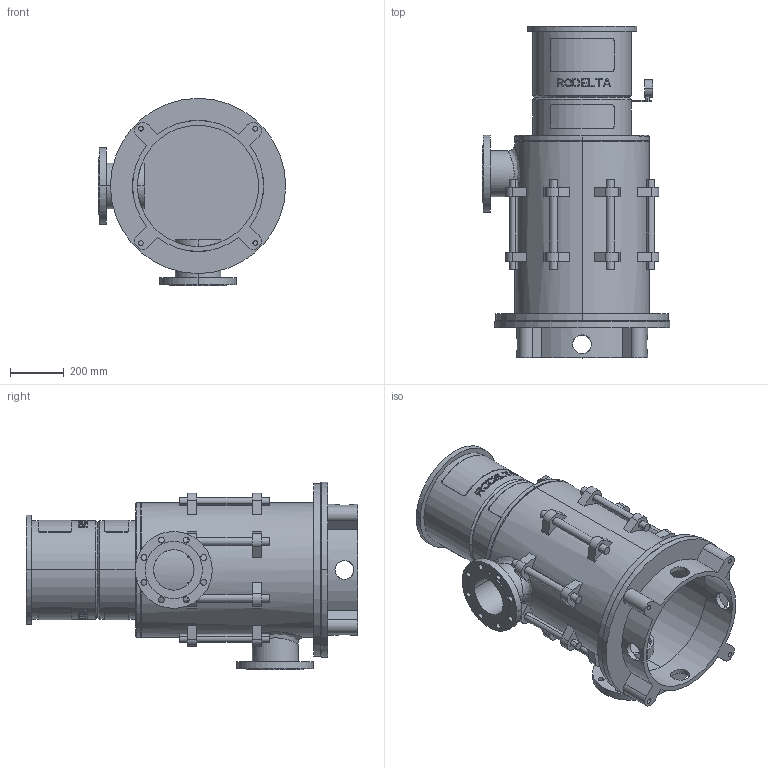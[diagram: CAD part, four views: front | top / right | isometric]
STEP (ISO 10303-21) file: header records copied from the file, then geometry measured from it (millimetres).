
FILE_DESCRIPTION((''),'2;1');
FILE_NAME('LS6_2TR_0GR_TOT_30KW','2023-08-15T',('Lyritlocal'),(''),'PRO/ENGINEER BY PARAMETRIC TECHNOLOGY CORPORATION, 2016360','PRO/ENGINEER BY PARAMETRIC TECHNOLOGY CORPORATION, 2016360','');
FILE_SCHEMA(('CONFIG_CONTROL_DESIGN'));
Length unit declared in the file: millimetre
Products named in the file (1): LS6_2TR_0GR_TOT_30KW
Bounding box: 695 x 1231 x 695 mm (x, y, z)
Volume: 40270226.9 mm3; surface area: 5291323.3 mm2
Topology: 3 solids, 7 shells, 684 faces, 1769 edges, 1174 vertices
Faces by surface type: plane 422, cylinder 242, cone 12, bspline 8
Entity records: 22581 total; most frequent: CARTESIAN_POINT 5961, ORIENTED_EDGE 3522, DIRECTION 3275, EDGE_CURVE 1769, AXIS2_PLACEMENT_3D 1237, VERTEX_POINT 1174, EDGE_LOOP 827, VECTOR 801
